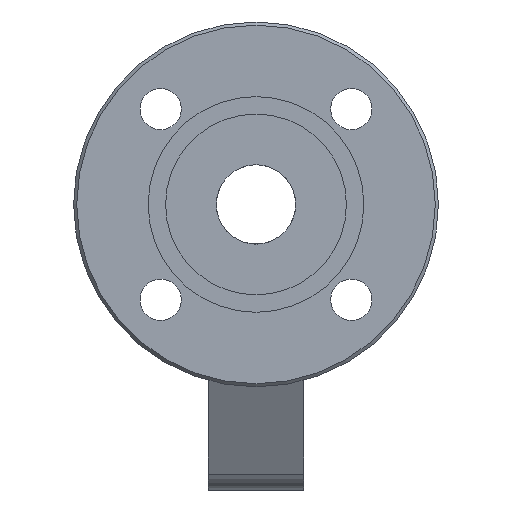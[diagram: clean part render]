
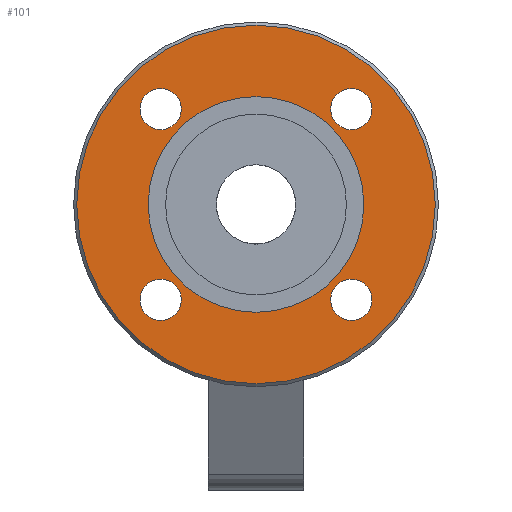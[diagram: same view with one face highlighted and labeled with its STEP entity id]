
A CAD part, left-side view. The second image highlights one B-rep face of the part: STEP entity #101.
In plain terms, the highlighted planar face has unit normal (-1, 0, 0).
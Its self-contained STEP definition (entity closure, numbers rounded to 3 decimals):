
#101=ADVANCED_FACE('',(#821,#823,#825,#827,#829,#831),#833,.T.);
#821=FACE_BOUND('',#822,.T.);
#822=EDGE_LOOP('',(#1939));
#823=FACE_BOUND('',#824,.T.);
#824=EDGE_LOOP('',(#1940));
#825=FACE_BOUND('',#826,.T.);
#826=EDGE_LOOP('',(#1941));
#827=FACE_BOUND('',#828,.T.);
#828=EDGE_LOOP('',(#1942));
#829=FACE_BOUND('',#830,.T.);
#830=EDGE_LOOP('',(#1943));
#831=FACE_OUTER_BOUND('',#832,.T.);
#832=EDGE_LOOP('',(#1944));
#833=PLANE('',#834);
#834=AXIS2_PLACEMENT_3D('',#835,#836,#837);
#835=CARTESIAN_POINT('',(-60.5,0.,0.));
#836=DIRECTION('',(-1.,0.,0.));
#837=DIRECTION('',(0.,1.,0.));
#1939=ORIENTED_EDGE('',*,*,#3033,.T.);
#1940=ORIENTED_EDGE('',*,*,#3034,.T.);
#1941=ORIENTED_EDGE('',*,*,#3035,.T.);
#1942=ORIENTED_EDGE('',*,*,#3036,.T.);
#1943=ORIENTED_EDGE('',*,*,#3025,.T.);
#1944=ORIENTED_EDGE('',*,*,#3037,.F.);
#3025=EDGE_CURVE('',#3309,#3309,#3310,.T.);
#3033=EDGE_CURVE('',#3322,#3322,#3323,.F.);
#3034=EDGE_CURVE('',#3324,#3324,#3325,.F.);
#3035=EDGE_CURVE('',#3326,#3326,#3327,.F.);
#3036=EDGE_CURVE('',#3328,#3328,#3329,.F.);
#3037=EDGE_CURVE('',#3330,#3330,#3331,.T.);
#3309=VERTEX_POINT('',#3772);
#3310=CIRCLE('',#3773,34.);
#3322=VERTEX_POINT('',#3807);
#3323=CIRCLE('',#3808,6.5);
#3324=VERTEX_POINT('',#3812);
#3325=CIRCLE('',#3813,6.5);
#3326=VERTEX_POINT('',#3817);
#3327=CIRCLE('',#3818,6.5);
#3328=VERTEX_POINT('',#3822);
#3329=CIRCLE('',#3823,6.5);
#3330=VERTEX_POINT('',#3827);
#3331=CIRCLE('',#3828,56.5);
#3772=CARTESIAN_POINT('',(-60.5,34.,0.));
#3773=AXIS2_PLACEMENT_3D('',#3774,#3775,#3776);
#3774=CARTESIAN_POINT('',(-60.5,0.,0.));
#3775=DIRECTION('',(1.,-0.,-0.));
#3776=DIRECTION('',(0.,1.,0.));
#3807=CARTESIAN_POINT('',(-60.5,-30.052,-36.552));
#3808=AXIS2_PLACEMENT_3D('',#3809,#3810,#3811);
#3809=CARTESIAN_POINT('',(-60.5,-30.052,-30.052));
#3810=DIRECTION('',(-1.,0.,0.));
#3811=DIRECTION('',(0.,0.,-1.));
#3812=CARTESIAN_POINT('',(-60.5,-36.552,30.052));
#3813=AXIS2_PLACEMENT_3D('',#3814,#3815,#3816);
#3814=CARTESIAN_POINT('',(-60.5,-30.052,30.052));
#3815=DIRECTION('',(-1.,0.,0.));
#3816=DIRECTION('',(0.,-1.,-0.));
#3817=CARTESIAN_POINT('',(-60.5,30.052,36.552));
#3818=AXIS2_PLACEMENT_3D('',#3819,#3820,#3821);
#3819=CARTESIAN_POINT('',(-60.5,30.052,30.052));
#3820=DIRECTION('',(-1.,0.,0.));
#3821=DIRECTION('',(0.,0.,1.));
#3822=CARTESIAN_POINT('',(-60.5,36.552,-30.052));
#3823=AXIS2_PLACEMENT_3D('',#3824,#3825,#3826);
#3824=CARTESIAN_POINT('',(-60.5,30.052,-30.052));
#3825=DIRECTION('',(-1.,0.,0.));
#3826=DIRECTION('',(0.,1.,0.));
#3827=CARTESIAN_POINT('',(-60.5,56.5,0.));
#3828=AXIS2_PLACEMENT_3D('',#3829,#3830,#3831);
#3829=CARTESIAN_POINT('',(-60.5,0.,0.));
#3830=DIRECTION('',(1.,-0.,-0.));
#3831=DIRECTION('',(0.,1.,0.));
